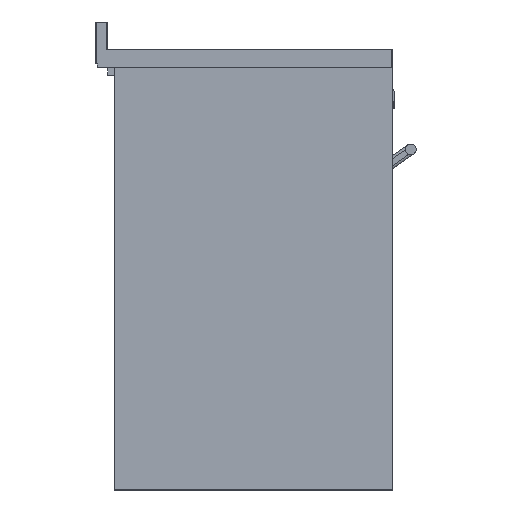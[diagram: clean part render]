
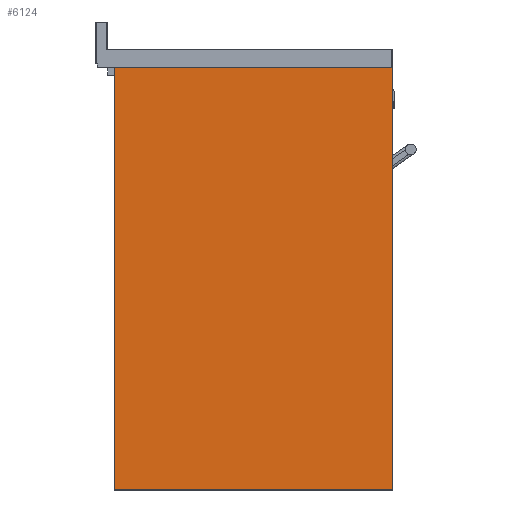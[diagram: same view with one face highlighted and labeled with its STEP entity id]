
A CAD part, left-side view. The second image highlights one B-rep face of the part: STEP entity #6124.
In plain terms, the highlighted planar face has unit normal (-1, 0, 0).
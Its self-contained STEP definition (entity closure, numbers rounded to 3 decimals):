
#972=LINE('',#31096,#2836);
#975=LINE('',#31102,#2839);
#978=LINE('',#31108,#2842);
#981=LINE('',#31113,#2845);
#2836=VECTOR('',#24597,1.);
#2839=VECTOR('',#24602,1.);
#2842=VECTOR('',#24607,1.);
#2845=VECTOR('',#24612,1.);
#6124=ADVANCED_FACE('',(#8010),#7329,.F.);
#7329=PLANE('',#22115);
#8010=FACE_OUTER_BOUND('',#9072,.T.);
#9072=EDGE_LOOP('',(#10855,#10856,#10857,#10858));
#10855=ORIENTED_EDGE('',*,*,#18498,.F.);
#10856=ORIENTED_EDGE('',*,*,#18507,.F.);
#10857=ORIENTED_EDGE('',*,*,#18504,.F.);
#10858=ORIENTED_EDGE('',*,*,#18501,.F.);
#16414=VERTEX_POINT('',#31095);
#16415=VERTEX_POINT('',#31097);
#16417=VERTEX_POINT('',#31103);
#16419=VERTEX_POINT('',#31109);
#18498=EDGE_CURVE('',#16414,#16415,#972,.T.);
#18501=EDGE_CURVE('',#16415,#16417,#975,.T.);
#18504=EDGE_CURVE('',#16417,#16419,#978,.T.);
#18507=EDGE_CURVE('',#16419,#16414,#981,.T.);
#22115=AXIS2_PLACEMENT_3D('',#31115,#24615,#24616);
#24597=DIRECTION('',(0.,1.,0.));
#24602=DIRECTION('',(0.,0.,1.));
#24607=DIRECTION('',(0.,-1.,0.));
#24612=DIRECTION('',(0.,0.,-1.));
#24615=DIRECTION('',(1.,0.,0.));
#24616=DIRECTION('',(0.,-1.,0.));
#31095=CARTESIAN_POINT('',(844.348,337.914,869.51));
#31096=CARTESIAN_POINT('',(844.348,337.914,869.51));
#31097=CARTESIAN_POINT('',(844.348,902.914,869.51));
#31102=CARTESIAN_POINT('',(844.348,902.914,869.51));
#31103=CARTESIAN_POINT('',(844.348,902.914,1727.51));
#31108=CARTESIAN_POINT('',(844.348,902.914,1727.51));
#31109=CARTESIAN_POINT('',(844.348,337.914,1727.51));
#31113=CARTESIAN_POINT('',(844.348,337.914,1727.51));
#31115=CARTESIAN_POINT('',(844.348,902.914,869.51));
